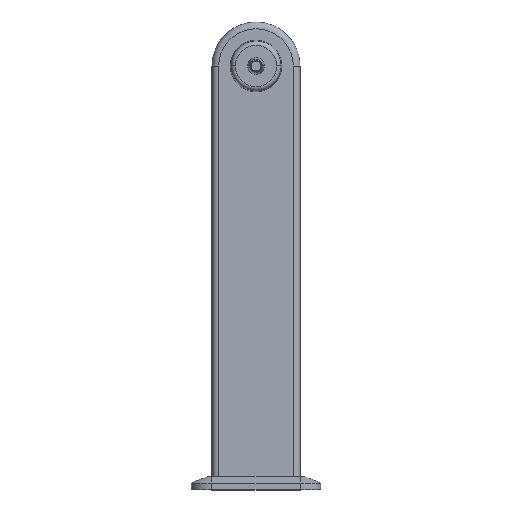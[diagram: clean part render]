
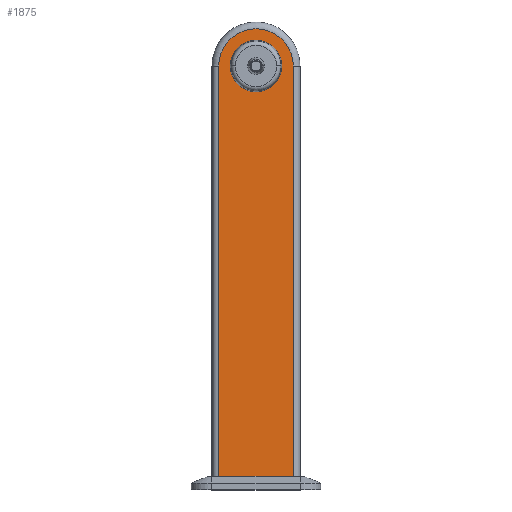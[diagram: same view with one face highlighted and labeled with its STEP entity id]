
A CAD part, top view. The second image highlights one B-rep face of the part: STEP entity #1875.
In plain terms, the highlighted planar face has unit normal (0, 0, 1).
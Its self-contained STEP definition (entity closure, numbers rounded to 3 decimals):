
#3 = CARTESIAN_POINT ( 'NONE',  ( 0., 0., 31.25 ) ) ;
#62 = AXIS2_PLACEMENT_3D ( 'NONE', #2451, #995, #2699 ) ;
#77 = DIRECTION ( 'NONE',  ( 1., 0., 0. ) ) ;
#156 = DIRECTION ( 'NONE',  ( 0., 0., 1. ) ) ;
#249 = DIRECTION ( 'NONE',  ( 1., 0., 0. ) ) ;
#331 = AXIS2_PLACEMENT_3D ( 'NONE', #2459, #2714, #1254 ) ;
#379 = DIRECTION ( 'NONE',  ( 0., -1., 0. ) ) ;
#446 = FACE_BOUND ( 'NONE', #886, .T. ) ;
#471 = VERTEX_POINT ( 'NONE', #1310 ) ;
#547 = EDGE_CURVE ( 'NONE', #3016, #930, #751, .T. ) ;
#557 = CARTESIAN_POINT ( 'NONE',  ( 55., -605., 31.25 ) ) ;
#592 = EDGE_CURVE ( 'NONE', #471, #914, #680, .T. ) ;
#680 = CIRCLE ( 'NONE', #1681, 38. ) ;
#703 = VECTOR ( 'NONE', #1629, 1000. ) ;
#751 = LINE ( 'NONE', #2079, #2119 ) ;
#886 = EDGE_LOOP ( 'NONE', ( #1610, #3095 ) ) ;
#914 = VERTEX_POINT ( 'NONE', #1035 ) ;
#930 = VERTEX_POINT ( 'NONE', #2249 ) ;
#971 = LINE ( 'NONE', #1523, #1535 ) ;
#995 = DIRECTION ( 'NONE',  ( 0., 0., 1. ) ) ;
#1035 = CARTESIAN_POINT ( 'NONE',  ( -38., 0., 31.25 ) ) ;
#1127 = CIRCLE ( 'NONE', #62, 38. ) ;
#1254 = DIRECTION ( 'NONE',  ( 1., 0., 0. ) ) ;
#1310 = CARTESIAN_POINT ( 'NONE',  ( 38., 0., 31.25 ) ) ;
#1417 = LINE ( 'NONE', #2855, #703 ) ;
#1523 = CARTESIAN_POINT ( 'NONE',  ( 0., -605., 31.25 ) ) ;
#1535 = VECTOR ( 'NONE', #77, 1000. ) ;
#1604 = CARTESIAN_POINT ( 'NONE',  ( 0., 0., 31.25 ) ) ;
#1610 = ORIENTED_EDGE ( 'NONE', *, *, #592, .F. ) ;
#1617 = EDGE_CURVE ( 'NONE', #914, #471, #1127, .T. ) ;
#1629 = DIRECTION ( 'NONE',  ( 0., 1., 0. ) ) ;
#1681 = AXIS2_PLACEMENT_3D ( 'NONE', #1604, #156, #1851 ) ;
#1693 = DIRECTION ( 'NONE',  ( 0., 0., 1. ) ) ;
#1738 = EDGE_CURVE ( 'NONE', #2364, #3016, #2535, .T. ) ;
#1829 = ORIENTED_EDGE ( 'NONE', *, *, #2660, .T. ) ;
#1851 = DIRECTION ( 'NONE',  ( 1., 0., 0. ) ) ;
#1875 = ADVANCED_FACE ( 'NONE', ( #2886, #446 ), #2466, .T. ) ;
#1912 = VERTEX_POINT ( 'NONE', #557 ) ;
#2079 = CARTESIAN_POINT ( 'NONE',  ( -55., -625., 31.25 ) ) ;
#2119 = VECTOR ( 'NONE', #379, 1000. ) ;
#2176 = AXIS2_PLACEMENT_3D ( 'NONE', #3, #1693, #249 ) ;
#2249 = CARTESIAN_POINT ( 'NONE',  ( -55., -605., 31.25 ) ) ;
#2362 = EDGE_LOOP ( 'NONE', ( #2673, #2446, #2787, #1829 ) ) ;
#2364 = VERTEX_POINT ( 'NONE', #2622 ) ;
#2446 = ORIENTED_EDGE ( 'NONE', *, *, #1738, .T. ) ;
#2451 = CARTESIAN_POINT ( 'NONE',  ( 0., 0., 31.25 ) ) ;
#2459 = CARTESIAN_POINT ( 'NONE',  ( 0., 0., 31.25 ) ) ;
#2466 = PLANE ( 'NONE',  #331 ) ;
#2535 = CIRCLE ( 'NONE', #2176, 55. ) ;
#2622 = CARTESIAN_POINT ( 'NONE',  ( 55., 0., 31.25 ) ) ;
#2660 = EDGE_CURVE ( 'NONE', #930, #1912, #971, .T. ) ;
#2673 = ORIENTED_EDGE ( 'NONE', *, *, #2948, .T. ) ;
#2699 = DIRECTION ( 'NONE',  ( 1., 0., 0. ) ) ;
#2714 = DIRECTION ( 'NONE',  ( 0., 0., 1. ) ) ;
#2787 = ORIENTED_EDGE ( 'NONE', *, *, #547, .T. ) ;
#2805 = CARTESIAN_POINT ( 'NONE',  ( -55., 0., 31.25 ) ) ;
#2855 = CARTESIAN_POINT ( 'NONE',  ( 55., 0., 31.25 ) ) ;
#2886 = FACE_OUTER_BOUND ( 'NONE', #2362, .T. ) ;
#2948 = EDGE_CURVE ( 'NONE', #1912, #2364, #1417, .T. ) ;
#3016 = VERTEX_POINT ( 'NONE', #2805 ) ;
#3095 = ORIENTED_EDGE ( 'NONE', *, *, #1617, .F. ) ;
